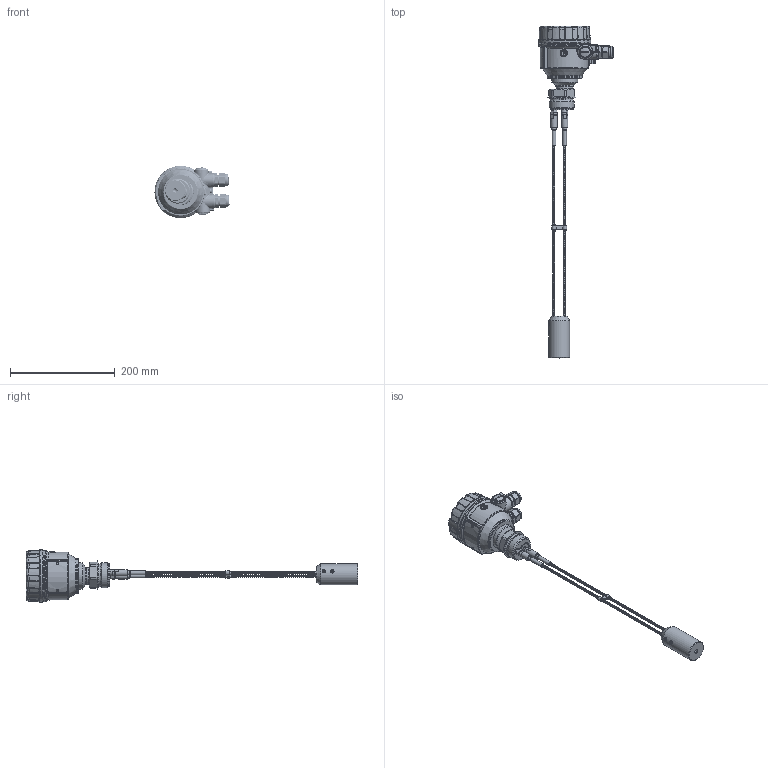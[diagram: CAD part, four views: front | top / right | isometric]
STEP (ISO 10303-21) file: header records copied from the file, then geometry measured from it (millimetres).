
FILE_DESCRIPTION(/* description */ (''),/* implementation_level */ '2;1');
FILE_NAME(/* name */ 'I:\Raj\3D\készülék rajzok\Összeállított készülékek\HT\HBT_7.stp',/* time_stamp */ '2022-09-06T16:06:20+02:00',/* author */ ('zcserhati'),/* organization */ (''),/* preprocessor_version */ 'ST-DEVELOPER v15.6',/* originating_system */ 'Autodesk Inventor 2015',/* authorisation */ '');
FILE_SCHEMA (('AUTOMOTIVE_DESIGN { 1 0 10303 214 3 1 1 }'));
Length unit declared in the file: millimetre
Products named in the file (27): RKH_1_1.0001; ZARO; SB_külső; U_Alát; DIN 128 - A4; DIN 7985 (Z) - M4x8-Z; Tlem_egy; adattabla; Szegecs; SZERELTHAZ; Alu_alacsony_uveg; Tomsz; Alatet; Gumidugo; Tomszel_sz; Foglalat; teflonbetét; HTK_Agy; ellenanya; Kozcsavat; Kotélvég; 4mmkotél; Suly; Tavtarto; Szonda; DIN 913 - M6 x 10; HBT_7
Bounding box: 143.41 x 634.6 x 99.96 mm (x, y, z)
Volume: 412747.3 mm3; surface area: 186202.2 mm2
Topology: 49 solids, 49 shells, 1459 faces, 3465 edges, 2088 vertices
Faces by surface type: plane 436, bspline 390, cylinder 369, cone 111, torus 97, sphere 56
Full cylindrical faces by diameter (mm): 3 x6, 3.2 x2, 3.242 x1, 3.4 x2, 3.5 x5, 3.65 x1, 3.9 x1, 4 x3, 4.1 x1, 4.3 x1, 4.5 x6, 5.9 x1, 6 x10, 6.647 x1, 7.3 x2, 8 x7, 10 x2, 12 x2, 12.5 x4, 14 x2, 17 x3, 18.15 x7, 18.3 x12, 20 x10, 23.5 x2, 24.5 x1, 25 x2, 26 x2, 27.5 x2, 28 x1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
Entity records: 68209 total; most frequent: CARTESIAN_POINT 41237, ORIENTED_EDGE 5486, DIRECTION 4935, EDGE_CURVE 2729, AXIS2_PLACEMENT_3D 2102, VERTEX_POINT 1745, EDGE_LOOP 1526, FACE_OUTER_BOUND 1256
